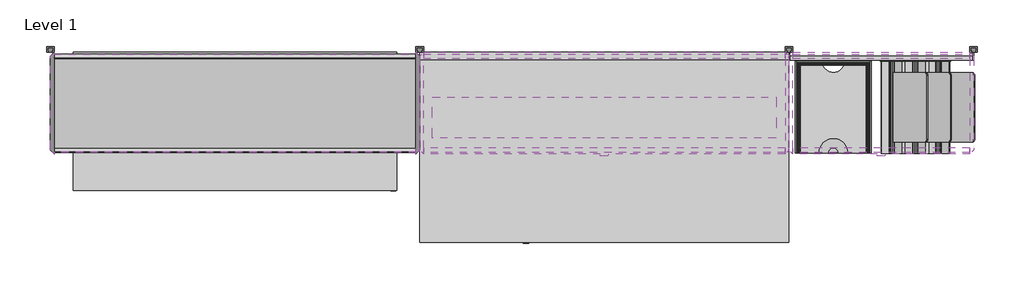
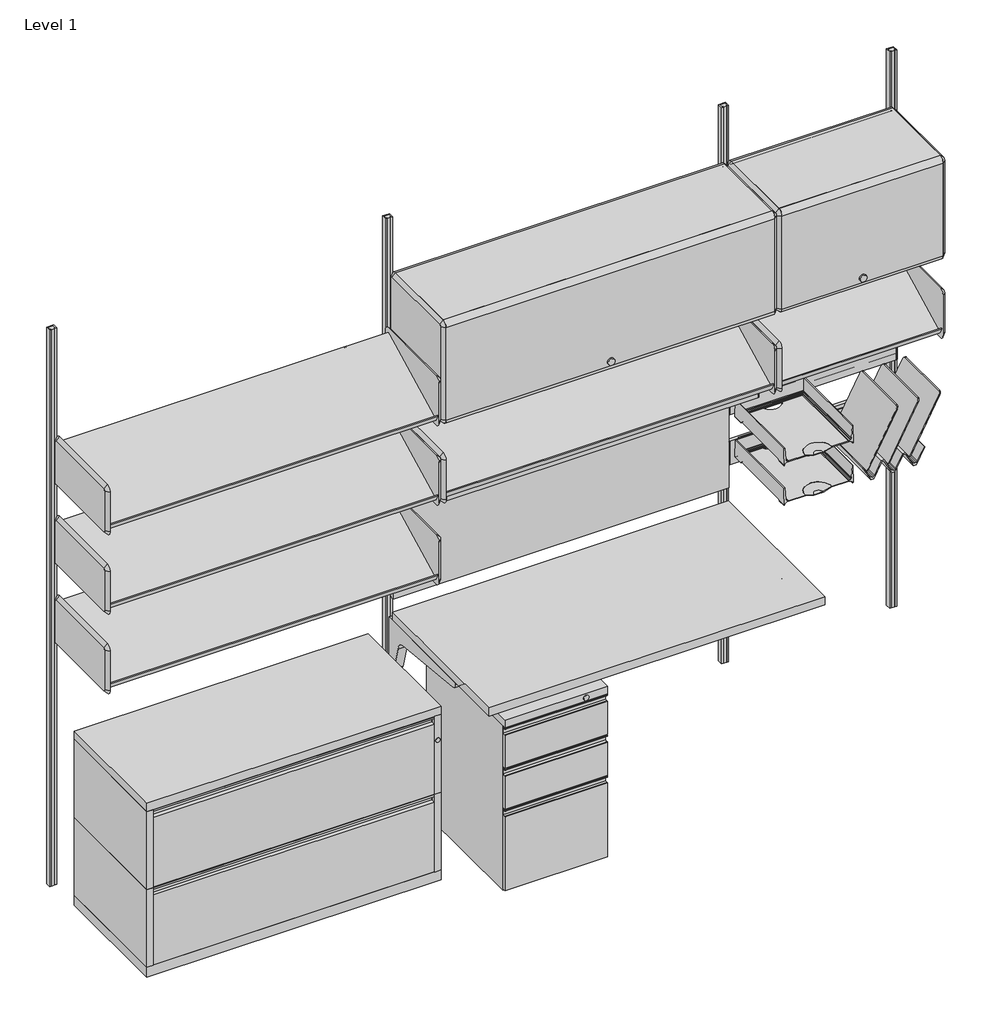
# One storey, incomplete: 22 furniture elements, 1 light fixture.
"""IFC4 building model written with IfcOpenShell, lengths in millimetres."""

from ifc_helpers import new_model, si_unit, origin, place, context, project, spatial, transform, mapped, element, save
from components import furniture_17bfd149, furniture_cb78dd66, furniture_7d92ce93, furniture_043fa3d8, furniture_083a197f, furniture_e2b42103, furniture_03e73c74, furniture_d3ea2044, furniture_439dfb7c, furniture_1bbfda2c, furniture_9f56e1c8, furniture_69a8165b, furniture_e015404a, furniture_82778d6f, furniture_ebb16344, furniture_fa600c10, furniture_8d228605, furniture_ea425779, light_fixture_48w_for_action_office_09e55f13

model = new_model("IFC4")

# Units and contexts
model_context = context("Model", 3, world=origin())
ifc_project = project(units=[si_unit("LENGTHUNIT", "METRE", prefix="MILLI")], contexts=[model_context])

# Site, building, storey
site = spatial("IfcSite", under=ifc_project)
building = spatial("IfcBuilding", under=site)
storey = spatial("IfcBuildingStorey", under=building, Name="Level 1", Elevation=0.0)

# Furniture
placement = place(None, origin())
furniture_shape = furniture_17bfd149(model_context)
element("IfcFurniture", 1, ObjectType="HermanMiller_ActionOffice_A3610_ToolBar : 4\"H x 24\"W", at=placement, inside=storey, context=model_context, shape_type="MappedRepresentation", body=[
    mapped(furniture_shape, transform((2743.2, -31.7499996, 0.0), x_axis=(1.0, 0.0, 0.0), y_axis=(0.0, 1.0, 0.0), z_axis=(0.0, 0.0, 1.0))),
])
furniture_2_shape = furniture_cb78dd66(model_context)
element("IfcFurniture", 2, ObjectType="HermanMiller_ActionOffice_A3410_B-StyleTackboard : 16\"H x 48\"W", at=placement, inside=storey, context=model_context, shape_type="MappedRepresentation", body=[
    mapped(furniture_2_shape, transform((1828.8, -31.57474, 0.0), x_axis=(-1.0, 0.0, 0.0), y_axis=(0.0, -1.0, 0.0), z_axis=(0.0, 0.0, 1.0))),
])
furniture_3_shape = furniture_7d92ce93(model_context)
element("IfcFurniture", 3, ObjectType="HermanMiller_ThrivePortfolio_Y7216_PaperTray : 3\"H x 12\"D x 10\"W", at=placement, inside=storey, context=model_context, shape_type="MappedRepresentation", body=[
    mapped(furniture_3_shape, transform((2584.73956, -198.55688, 0.0), x_axis=(1.0, 0.0, 0.0), y_axis=(0.0, 1.0, 0.0), z_axis=(0.0, 0.0, 1.0))),
])
furniture_4_shape = furniture_043fa3d8(model_context)
element("IfcFurniture", 4, ObjectType="HermanMiller_ThrivePortfolio_Y7218_DiagonalTray : 8 1/2\"H x 12\"D x 13\"W", at=placement, inside=storey, context=model_context, shape_type="MappedRepresentation", body=[
    mapped(furniture_4_shape, transform((2856.156097, -199.6694, 0.0), x_axis=(1.0, 0.0, 0.0), y_axis=(0.0, 1.0, 0.0), z_axis=(0.0, 0.0, 1.0))),
])
furniture_5_shape = furniture_083a197f(model_context)
element("IfcFurniture", 5, ObjectType="HermanMiller_ActionOffice_A2310_Sq-EdgeRectangularWorkSurface : 24\"D x 48\"W", at=placement, inside=storey, context=model_context, shape_type="MappedRepresentation", body=[
    mapped(furniture_5_shape, transform((1828.8, -333.375, 0.0), x_axis=(1.0, 0.0, 0.0), y_axis=(0.0, 1.0, 0.0), z_axis=(0.0, 0.0, 1.0))),
])
furniture_6_shape = furniture_e2b42103(model_context)
element("IfcFurniture", 6, ObjectType="HermanMiller_ActionOffice_A3610_ToolBar : 4\"H x 24\"W", at=placement, inside=storey, context=model_context, shape_type="MappedRepresentation", body=[
    mapped(furniture_6_shape, transform((2743.2, -31.7499996, 0.0), x_axis=(1.0, 0.0, 0.0), y_axis=(0.0, 1.0, 0.0), z_axis=(0.0, 0.0, 1.0))),
])
furniture_7_shape = furniture_03e73c74(model_context)
element("IfcFurniture", 7, ObjectType="HermanMiller_ActionOffice_A3220_B-StyleStorageDisplay : Display 13\"D x 24\"W", at=placement, inside=storey, context=model_context, shape_type="MappedRepresentation", body=[
    mapped(furniture_7_shape, transform((2867.1420045, -200.025, 0.0), x_axis=(1.0, 0.0, 0.0), y_axis=(0.0, 1.0, 0.0), z_axis=(0.0, 0.0, 1.0))),
])
furniture_8_shape = furniture_d3ea2044(model_context)
element("IfcFurniture", 8, ObjectType="HermanMiller_ThrivePortfolio_Y7216_PaperTray : 3\"H x 12\"D x 10\"W", at=placement, inside=storey, context=model_context, shape_type="MappedRepresentation", body=[
    mapped(furniture_8_shape, transform((2584.73956, -198.55688, 0.0), x_axis=(1.0, 0.0, 0.0), y_axis=(0.0, 1.0, 0.0), z_axis=(0.0, 0.0, 1.0))),
])
furniture_9_shape = furniture_439dfb7c(model_context)
element("IfcFurniture", 9, ObjectType="HermanMiller_ActionOffice_A3220_B-StyleStorageDisplay : Display 13\"D x 48\"W", at=placement, inside=storey, context=model_context, shape_type="MappedRepresentation", body=[
    mapped(furniture_9_shape, transform((1952.7420045, -200.025, 0.0), x_axis=(1.0, 0.0, 0.0), y_axis=(0.0, 1.0, 0.0), z_axis=(0.0, 0.0, 1.0))),
])
element("IfcFurniture", 10, ObjectType="HermanMiller_ActionOffice_A3220_B-StyleStorageDisplay : Display 13\"D x 48\"W", at=placement, inside=storey, context=model_context, shape_type="MappedRepresentation", body=[
    mapped(furniture_9_shape, transform((733.5420045, -200.025, 0.0), x_axis=(1.0, 0.0, 0.0), y_axis=(0.0, 1.0, 0.0), z_axis=(0.0, 0.0, 1.0))),
])
furniture_10_shape = furniture_1bbfda2c(model_context)
element("IfcFurniture", 11, ObjectType="HermanMiller_ActionOffice_A3220_B-StyleStorageDisplay : Display 13\"D x 48\"W", at=placement, inside=storey, context=model_context, shape_type="MappedRepresentation", body=[
    mapped(furniture_10_shape, transform((733.5420045, -200.025, 0.0), x_axis=(1.0, 0.0, 0.0), y_axis=(0.0, 1.0, 0.0), z_axis=(0.0, 0.0, 1.0))),
])
furniture_11_shape = furniture_9f56e1c8(model_context)
element("IfcFurniture", 12, ObjectType="HermanMiller_ActionOffice_A3220_B-StyleStorageDisplay : Display 13\"D x 48\"W", at=placement, inside=storey, context=model_context, shape_type="MappedRepresentation", body=[
    mapped(furniture_11_shape, transform((733.5420045, -200.025, 0.0), x_axis=(1.0, 0.0, 0.0), y_axis=(0.0, 1.0, 0.0), z_axis=(0.0, 0.0, 1.0))),
])
furniture_12_shape = furniture_69a8165b(model_context)
element("IfcFurniture", 13, ObjectType="HermanMiller_TuStorage_LW100_W-PullFreestandingPedestal : 20D BBF Standard Hgt", at=placement, inside=storey, context=model_context, shape_type="MappedRepresentation", body=[
    mapped(furniture_12_shape, transform((1462.2907, -401.6375, 0.0), x_axis=(1.0, 0.0, 0.0), y_axis=(0.0, 1.0, 0.0), z_axis=(0.0, 0.0, 1.0))),
])
furniture_13_shape = furniture_e015404a(model_context)
element("IfcFurniture", 14, ObjectType="HermanMiller_MeridianFiling_26_Standard-PullFreeStandingLateralFile : 2 11 3/4H x 18D x 42W", at=placement, inside=storey, context=model_context, shape_type="MappedRepresentation", body=[
    mapped(furniture_13_shape, transform((609.6, -247.65, 0.0), x_axis=(1.0, 0.0, 0.0), y_axis=(0.0, 1.0, 0.0), z_axis=(0.0, 0.0, 1.0))),
])
furniture_14_shape = furniture_82778d6f(model_context)
element("IfcFurniture", 15, ObjectType="HermanMiller_ActionOffice_B-StyleFlipperDoor : Paint 15-1/2H x 13D x 24W", at=placement, inside=storey, context=model_context, shape_type="MappedRepresentation", body=[
    mapped(furniture_14_shape, transform((2743.2, -200.025, 457.2), x_axis=(1.0, 0.0, 0.0), y_axis=(0.0, 1.0, 0.0), z_axis=(0.0, 0.0, 1.0))),
])
furniture_15_shape = furniture_ebb16344(model_context)
element("IfcFurniture", 16, ObjectType="HermanMiller_ActionOffice_B-StyleFlipperDoor : Paint 15-1/2H x 13D x 48W", at=placement, inside=storey, context=model_context, shape_type="MappedRepresentation", body=[
    mapped(furniture_15_shape, transform((1828.8, -200.025, 457.2), x_axis=(1.0, 0.0, 0.0), y_axis=(0.0, 1.0, 0.0), z_axis=(0.0, 0.0, 1.0))),
])
furniture_16_shape = furniture_fa600c10(model_context)
element("IfcFurniture", 17, ObjectType="HermanMiller_CoStruc_B-StyleShelf : 15-1/2H x 13D x 24W", at=placement, inside=storey, context=model_context, shape_type="MappedRepresentation", body=[
    mapped(furniture_16_shape, transform((2867.1420045, -200.025, 457.2), x_axis=(1.0, 0.0, 0.0), y_axis=(0.0, 1.0, 0.0), z_axis=(0.0, 0.0, 1.0))),
])
furniture_17_shape = furniture_8d228605(model_context)
element("IfcFurniture", 18, ObjectType="HermanMiller_CoStruc_B-StyleShelf : 15-1/2H x 13D x 48W", at=placement, inside=storey, context=model_context, shape_type="MappedRepresentation", body=[
    mapped(furniture_17_shape, transform((1952.7420045, -200.025, 457.2), x_axis=(1.0, 0.0, 0.0), y_axis=(0.0, 1.0, 0.0), z_axis=(0.0, 0.0, 1.0))),
])
furniture_18_shape = furniture_ea425779(model_context)
element("IfcFurniture", 19, ObjectType="HermanMiller_ActionOffice_AO213_WallStrip : 84\"H", at=placement, inside=storey, context=model_context, shape_type="MappedRepresentation", body=[
    mapped(furniture_18_shape, transform((3048.0, 0.0, 0.0), x_axis=(1.0, 0.0, 0.0), y_axis=(0.0, 1.0, 0.0), z_axis=(0.0, 0.0, 1.0))),
])
element("IfcFurniture", 20, ObjectType="HermanMiller_ActionOffice_AO213_WallStrip : 84\"H", at=placement, inside=storey, context=model_context, shape_type="MappedRepresentation", body=[
    mapped(furniture_18_shape, transform((2438.4, 0.0, 0.0), x_axis=(1.0, 0.0, 0.0), y_axis=(0.0, 1.0, 0.0), z_axis=(0.0, 0.0, 1.0))),
])
element("IfcFurniture", 21, ObjectType="HermanMiller_ActionOffice_AO213_WallStrip : 84\"H", at=placement, inside=storey, context=model_context, shape_type="MappedRepresentation", body=[
    mapped(furniture_18_shape, transform((1219.2, 0.0, 0.0), x_axis=(1.0, 0.0, 0.0), y_axis=(0.0, 1.0, 0.0), z_axis=(0.0, 0.0, 1.0))),
])
element("IfcFurniture", 22, ObjectType="HermanMiller_ActionOffice_AO213_WallStrip : 84\"H", at=placement, inside=storey, context=model_context, shape_type="MappedRepresentation", body=[
    mapped(furniture_18_shape, transform((0.0, 0.0, 0.0), x_axis=(1.0, 0.0, 0.0), y_axis=(0.0, 1.0, 0.0), z_axis=(0.0, 0.0, 1.0))),
])

# Light fixture
light_fixture_48w_for_action_office_shape = light_fixture_48w_for_action_office_09e55f13(model_context)
element("IfcLightFixture", 23, ObjectType="HermanMiller_SupplementalProducts_G6170_EUnderShelfLEDTaskLight : 48W for Action Office", at=placement, inside=storey, context=model_context, shape_type="MappedRepresentation", body=[
    mapped(light_fixture_48w_for_action_office_shape, transform((1828.8, -234.95, 124.8679666), x_axis=(1.0, 0.0, 0.0), y_axis=(0.0, 1.0, 0.0), z_axis=(0.0, 0.0, 1.0))),
])

save(model, "model.ifc")
